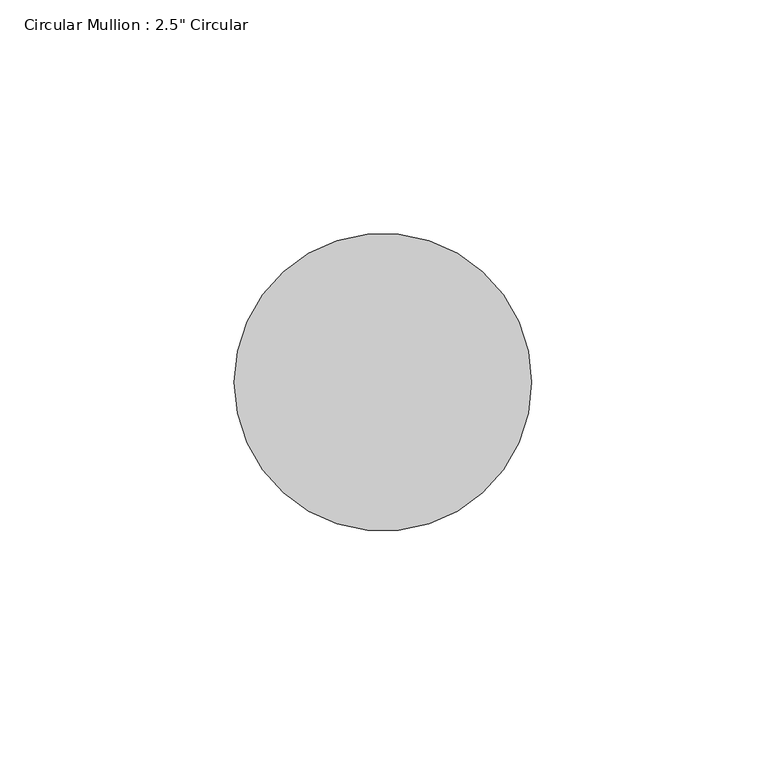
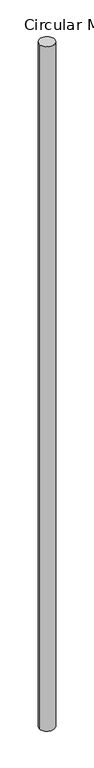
"""IFC4 building model written with IfcOpenShell, lengths in millimetres: member geometry."""

import ifcopenshell
import ifcopenshell.guid

model = None  # the IFC model being written
_history = None  # IfcOwnerHistory: only IFC2X3 demands one
_inside = {}  # id of a spatial element -> (the spatial element, [elements in it])
_under = {}  # id of a project, library or spatial element -> (it, [spatial elements below it])
_declared = {}  # id of a project -> (the project, [libraries it declares])
_typed = {}  # id of a type object -> (the type object, [elements of that type])
_made_of = {}  # id of a material, layer set ... -> (it, [elements and type objects made of it])


def new_model(schema):
    """Start an empty IFC model of exactly this schema.

    Asked for "IFC4X3", IfcOpenShell would pick the latest addendum, in which some entities
    have other attributes; the version numbers below select the first issue.
    IFC2X3 requires an IfcOwnerHistory on every rooted entity: one is made here for all.
    """
    global model, _history
    if schema == "IFC4X3":
        model = ifcopenshell.file(schema_version=(4, 3, 0, 0))
    else:
        model = ifcopenshell.file(schema=schema)
    _inside.clear()
    _under.clear()
    _declared.clear()
    _typed.clear()
    _made_of.clear()
    _history = None
    if model.schema == "IFC2X3":
        org = make("IfcOrganization", Name="unknown")
        user = make(
            "IfcPersonAndOrganization",
            ThePerson=make("IfcPerson", FamilyName="unknown"),
            TheOrganization=org,
        )
        app = make(
            "IfcApplication",
            ApplicationDeveloper=org,
            Version="unknown",
            ApplicationFullName="unknown",
            ApplicationIdentifier="unknown",
        )
        _history = make(
            "IfcOwnerHistory",
            OwningUser=user,
            OwningApplication=app,
            ChangeAction="ADDED",
            CreationDate=0,
        )
    return model


def make(cls, **values):
    """One entity of the class cls with the attributes given. An attribute that is None is left unset."""
    return model.create_entity(
        cls, **{name: value for name, value in values.items() if value is not None}
    )


def rooted(cls, **values):
    """An entity with a GlobalId (a new one), such as an element, a storey or a relation."""
    return make(cls, GlobalId=ifcopenshell.guid.new(), OwnerHistory=_history, **values)


def si_unit(unit_type, name, prefix=None):
    """IfcSIUnit, for example si_unit("LENGTHUNIT", "METRE", prefix="MILLI")."""
    return make("IfcSIUnit", UnitType=unit_type, Prefix=prefix, Name=name)


def assignment(units):
    """IfcUnitAssignment: the units of a project."""
    return None if units is None else make("IfcUnitAssignment", Units=units)


def point(xyz):
    """IfcCartesianPoint."""
    return None if xyz is None else make("IfcCartesianPoint", Coordinates=xyz)


def direction(xyz):
    """IfcDirection."""
    return None if xyz is None else make("IfcDirection", DirectionRatios=xyz)


def frame(location, z_axis=None, x_axis=None):
    """IfcAxis2Placement3D, a coordinate frame: its origin and axes. An axis left out is left unset."""
    return make(
        "IfcAxis2Placement3D",
        Location=point(location),
        Axis=direction(z_axis),
        RefDirection=direction(x_axis),
    )


def frame_2d(location, x_axis=None):
    """IfcAxis2Placement2D, a coordinate frame in the plane: its origin and x axis."""
    return make(
        "IfcAxis2Placement2D", Location=point(location), RefDirection=direction(x_axis)
    )


def origin():
    """The frame at (0, 0, 0) with its axes left unset."""
    return frame((0.0, 0.0, 0.0))


def origin_2d():
    """The frame at (0, 0) in the plane with its x axis left unset."""
    return frame_2d((0.0, 0.0))


def place(relative_to, where):
    """IfcLocalPlacement: puts the frame where relative to a parent placement (None: the world)."""
    return make(
        "IfcLocalPlacement", PlacementRelTo=relative_to, RelativePlacement=where
    )


def context(
    kind, dimensions, precision=None, world=None, true_north=None, identifier=None
):
    """IfcGeometricRepresentationContext, for example the 3D "Model" context."""
    return make(
        "IfcGeometricRepresentationContext",
        ContextIdentifier=identifier,
        ContextType=kind,
        CoordinateSpaceDimension=dimensions,
        Precision=precision,
        WorldCoordinateSystem=world,
        TrueNorth=true_north,
    )


def project(units=None, contexts=None):
    """IfcProject with its units and contexts."""
    return rooted(
        "IfcProject",
        Name="project",
        RepresentationContexts=contexts,
        UnitsInContext=assignment(units),
    )


def spatial(cls, under=None, at=None, **own):
    """A site, building, storey or space (cls), placed at a placement, below another one or the project."""
    s = rooted(cls, ObjectPlacement=at, **own)
    if under is not None:
        _under.setdefault(under.id(), (under, []))[1].append(s)
    return s


def circle_curve(where, radius):
    """IfcCircle in the frame where."""
    return make("IfcCircle", Position=where, Radius=radius)


def trimmed(basis, trim1, trim2, sense, master):
    """IfcTrimmedCurve: the piece of a basis curve between two trims."""
    return make(
        "IfcTrimmedCurve",
        BasisCurve=basis,
        Trim1=trim1,
        Trim2=trim2,
        SenseAgreement=sense,
        MasterRepresentation=master,
    )


def segment(curve, same_sense, transition):
    """IfcCompositeCurveSegment."""
    return make(
        "IfcCompositeCurveSegment",
        Transition=transition,
        SameSense=same_sense,
        ParentCurve=curve,
    )


def composite_curve(segments, self_intersect=None):
    """IfcCompositeCurve: segments joined end to end."""
    return make("IfcCompositeCurve", Segments=segments, SelfIntersect=self_intersect)


def outline(outer, holes=None, kind="AREA"):
    """IfcArbitraryClosedProfileDef: a profile drawn as a closed curve; with holes, ...WithVoids."""
    if holes is None:
        return make("IfcArbitraryClosedProfileDef", ProfileType=kind, OuterCurve=outer)
    return make(
        "IfcArbitraryProfileDefWithVoids",
        ProfileType=kind,
        OuterCurve=outer,
        InnerCurves=holes,
    )


def extrude(swept, where, along, depth):
    """IfcExtrudedAreaSolid: the profile swept, set in the frame where, extruded along a direction by depth."""
    return make(
        "IfcExtrudedAreaSolid",
        SweptArea=swept,
        Position=where,
        ExtrudedDirection=direction(along),
        Depth=depth,
    )


def shape(context_of_items, identifier, shape_type, items):
    """IfcShapeRepresentation: the items that make up one representation, for example the "Body"."""
    return make(
        "IfcShapeRepresentation",
        ContextOfItems=context_of_items,
        RepresentationIdentifier=identifier,
        RepresentationType=shape_type,
        Items=items,
    )


def source(mapping_origin, context_of_items, identifier, shape_type, items):
    """IfcRepresentationMap: a shape defined once, which mapped items show again and again."""
    return make(
        "IfcRepresentationMap",
        MappingOrigin=mapping_origin,
        MappedRepresentation=shape(context_of_items, identifier, shape_type, items),
    )


def transform(
    local_origin,
    x_axis=None,
    y_axis=None,
    z_axis=None,
    scale=None,
    scale2=None,
    scale3=None,
    uniform=True,
):
    """IfcCartesianTransformationOperator3D, or its non-uniform kind. x_axis, y_axis, z_axis: its Axis1, 2, 3."""
    if uniform:
        return make(
            "IfcCartesianTransformationOperator3D",
            Axis1=direction(x_axis),
            Axis2=direction(y_axis),
            LocalOrigin=point(local_origin),
            Scale=scale,
            Axis3=direction(z_axis),
        )
    return make(
        "IfcCartesianTransformationOperator3DnonUniform",
        Axis1=direction(x_axis),
        Axis2=direction(y_axis),
        LocalOrigin=point(local_origin),
        Scale=scale,
        Axis3=direction(z_axis),
        Scale2=scale2,
        Scale3=scale3,
    )


def mapped(mapping_source, mapping_target):
    """IfcMappedItem: shows the shape of a source again, moved by a transform."""
    return make(
        "IfcMappedItem", MappingSource=mapping_source, MappingTarget=mapping_target
    )


def made_of(thing, what):
    """Note that an element or type object is made of a material, layer set ...; save() writes the relation."""
    if what is not None:
        _made_of.setdefault(what.id(), (what, []))[1].append(thing)
    return thing


def element(
    cls,
    number,
    at=None,
    inside=None,
    cuts=None,
    type_object=None,
    material=None,
    context=None,
    identifier="Body",
    shape_type=None,
    held_by="IfcProductDefinitionShape",
    body=None,
    shapes=None,
    **own,
):
    """One element of the class cls, such as IfcWall. Its Tag is "e" and its number.

    at: its placement. inside: the storey or other place that contains it. cuts: it is an
    opening in that element (IfcRelVoidsElement). A single representation is given by context,
    identifier, shape_type and body (its items); several are given by shapes. held_by: the class
    of the entity that holds the representations. save() writes the other relations.
    """
    e = rooted(cls, Tag="e%d" % number, ObjectPlacement=at, **own)
    if body is not None:
        shapes = [shape(context, identifier, shape_type, body)]
    if shapes is not None:
        e.Representation = make(held_by, Representations=shapes)
    if inside is not None:
        _inside.setdefault(inside.id(), (inside, []))[1].append(e)
    if cuts is not None:
        rooted(
            "IfcRelVoidsElement", RelatingBuildingElement=cuts, RelatedOpeningElement=e
        )
    if type_object is not None:
        _typed.setdefault(type_object.id(), (type_object, []))[1].append(e)
    return made_of(e, material)


def aggregate(whole, parts):
    """IfcRelAggregates: a whole, such as a stair, and the parts it consists of."""
    return rooted("IfcRelAggregates", RelatingObject=whole, RelatedObjects=parts)


def save(model, path):
    """Write the relations noted so far, then the file.

    IfcRelAggregates (storeys below a building ...), IfcRelContainedInSpatialStructure (elements
    in a storey), IfcRelDefinesByType, IfcRelAssociatesMaterial and IfcRelDeclares: one each for
    every whole, place, type object, material and project.
    """
    for whole, parts in _under.values():
        aggregate(whole, parts)
    for where, things in _inside.values():
        rooted(
            "IfcRelContainedInSpatialStructure",
            RelatedElements=things,
            RelatingStructure=where,
        )
    for kind, things in _typed.values():
        rooted("IfcRelDefinesByType", RelatedObjects=things, RelatingType=kind)
    for what, things in _made_of.values():
        rooted("IfcRelAssociatesMaterial", RelatedObjects=things, RelatingMaterial=what)
    for by, libraries in _declared.values():
        rooted("IfcRelDeclares", RelatingContext=by, RelatedDefinitions=libraries)
    model.write(path)


def member_b8b030e0(model_context):
    return source(origin(), model_context, "Body", "SweptSolid", [
        extrude(outline(composite_curve([segment(trimmed(circle_curve(origin_2d(), 31.75), [point((31.75, 0.0))], [point((-31.75, 0.0))], False, "CARTESIAN"), True, "CONTINUOUS"), segment(trimmed(circle_curve(origin_2d(), 31.75), [point((-31.75, 0.0))], [point((31.75, 0.0))], False, "CARTESIAN"), True, "CONTINUOUS")], self_intersect=False)), frame((0.0, 0.0, -3003.2775926), z_axis=(0.0, 0.0, 1.0), x_axis=(1.0, 0.0, 0.0)), (0.0, 0.0, 1.0), 3003.2775926),
    ])


if __name__ == "__main__":
    model = new_model("IFC4")
    model_context = context("Model", 3, world=origin())
    ifc_project = project(units=[si_unit("LENGTHUNIT", "METRE", prefix="MILLI")], contexts=[model_context])
    site = spatial("IfcSite", under=ifc_project)
    building = spatial("IfcBuilding", under=site)
    placement = place(None, origin())
    member_shape = member_b8b030e0(model_context)
    element("IfcMember", 1, ObjectType="Circular Mullion : 2.5\" Circular", at=placement, inside=building, context=model_context, shape_type="MappedRepresentation", body=[
        mapped(member_shape, transform((0.0, 0.0, 0.0), x_axis=(1.0, 0.0, 0.0), y_axis=(0.0, 1.0, 0.0), z_axis=(0.0, 0.0, 1.0))),
    ])
    save(model, "model.ifc")
